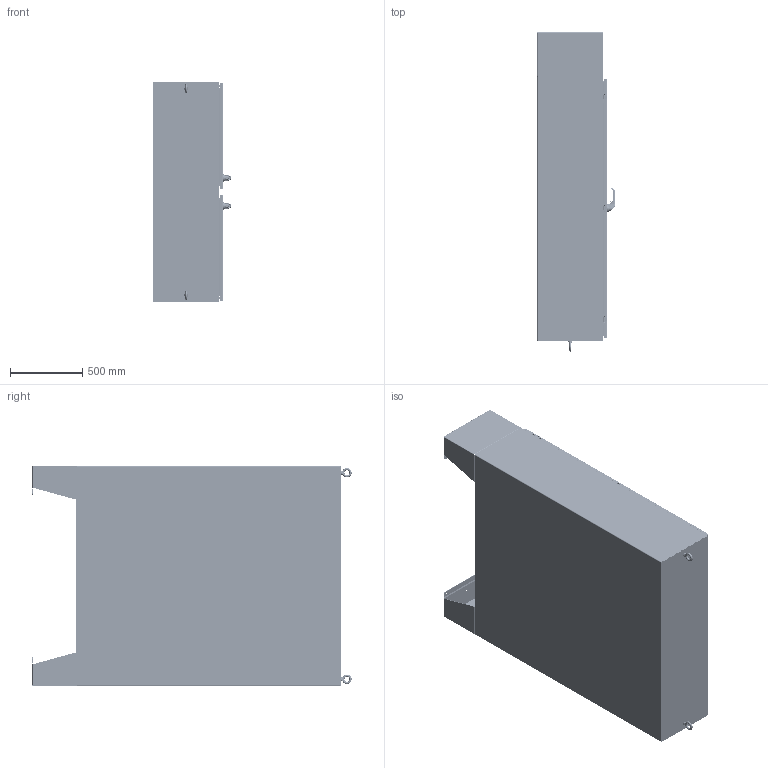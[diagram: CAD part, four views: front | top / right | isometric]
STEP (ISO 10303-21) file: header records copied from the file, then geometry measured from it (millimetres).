
FILE_DESCRIPTION((''),'2;1');
FILE_NAME('MODEL-149_ASM','2026-02-19T15:34:11',('mikek'),('SAGINAW CONTROL & ENGINEERING'),'CREO PARAMETRIC BY PTC INC, 2021284','CREO PARAMETRIC BY PTC INC, 2021284','');
FILE_SCHEMA(('AUTOMOTIVE_DESIGN { 1 0 10303 214 1 1 1 1 }'));
Length unit declared in the file: inch
Products named in the file (89): MODEL-149-BTM; MODEL-149-RS; MODEL-149-LS; MODEL-149-BCK; MODEL-149-TP; MODEL-149-RH-DR; 100837; 111267; 100882; 100955_SCREW_MTG; 100955_PADLOCK_CATCH; 100955_SCREW_LARGE; 100955_INSERT_SHAFT; 100955_INSERT_PKH; 100955_GASKET; 100955_O-RING; 100955_BASE; 100955_SPRING; 100955_HANDLE; 100955_CAM_SHAFT; 100955_HANDLE_ASM; 100955_CAM_ADAPTER; 100955_EARTH_NUT; 100955_FLANGE_NUT; 100955_CAM_NUT; 100955_KEY_INSERT; 100955_SPRING_CAM; 100955_TORSION_SPRING; 100955_SCREW_INSERT; 100955_ASM; 102236; 100030; 102236_ASM; MODEL-149-ROD-UPR-RH; 128146; 128145; 128144; 102482; MODEL-149-ROD-UPR-RH_ASM; 128143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
Assembly tree (207 placements, depth 5):
  MODEL-149_ASM
    MODEL-149-BTM
    MODEL-149-RS
    MODEL-149-LS
    MODEL-149-BCK
    MODEL-149-TP
    MODEL-149-RH-DOOR-ASSY_ASM
      MODEL-149-RH-DR
      100837  x5
      111267
      100882  x10
      100955_ASM
        100955_SCREW_MTG
        100955_PADLOCK_CATCH
        100955_SCREW_LARGE  x2
        100955_INSERT_SHAFT
        100955_INSERT_PKH
        100955_GASKET
        100955_O-RING
        100955_BASE
        100955_SPRING
        100955_HANDLE_ASM
          100955_HANDLE
          100955_CAM_SHAFT
        100955_CAM_ADAPTER
        100955_EARTH_NUT
        100955_FLANGE_NUT
        100955_CAM_NUT
        100955_KEY_INSERT
        100955_SPRING_CAM
        100955_TORSION_SPRING
        100955_SCREW_INSERT
      102236_ASM
        102236
        100030  x2
      MODEL-149-ROD-UPR-RH_ASM
        MODEL-149-ROD-UPR-RH
        128146
        128145
        128144
        102482  x2
      128143  x2
      112504  x2
      MODEL-149-ROD-LWR-RH_ASM
        MODEL-149-ROD-LWR-RH
        128146
        128145
        128144
        102482  x2
      MODEL-149-PR-GSKT-RH
      128258_ASM  x3
        128258
      126395  x3
      102483  x3
      101383_ASM  x3
        101383
        101383-STUD
      101221  x3
    MODEL-149-LH-DOOR-ASSY_ASM
      MODEL-149-LH-DR
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Bounding box: 535.45 x 2208.4 x 1524 mm (x, y, z)
Volume: 37972977.2 mm3; surface area: 27258387.5 mm2
Topology: 251 solids, 251 shells, 22756 faces, 57794 edges, 35464 vertices
Faces by surface type: plane 7887, cylinder 5849, bspline 5136, torus 1742, cone 1390, sphere 636, extrusion 116
Entity records: 434134 total; most frequent: CARTESIAN_POINT 170936, ORIENTED_EDGE 39516, DIRECTION 35980, PRESENTATION_STYLE_ASSIGNMENT 20770, STYLED_ITEM 20765, EDGE_CURVE 19758, CURVE_STYLE 19710, AXIS2_PLACEMENT_3D 13220
